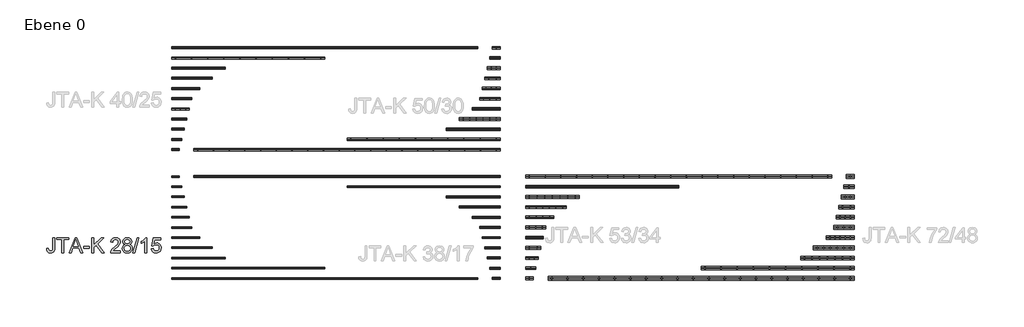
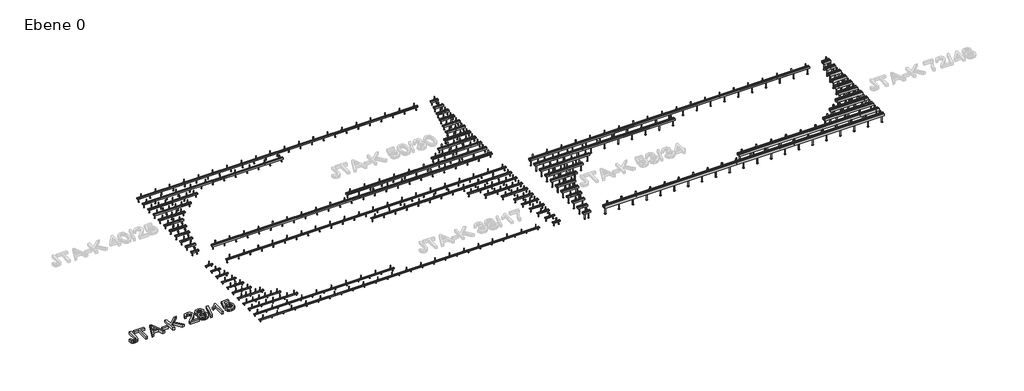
# One storey, part 1 of 2: 66 fasteners, 1 proxy.
"""IFC4 building model written with IfcOpenShell, lengths in millimetres."""

from ifc_helpers import new_model, si_unit, origin, origin_with_axes, place, context, project, spatial, polyline, outline, extrude, transform, mapped, element, save
from components import fastener_61a32017, fastener_a3984f85, fastener_40bd0cf4, fastener_e9d794d6, fastener_d3574054, fastener_d96db2c9, fastener_0c17b6f2, fastener_9355f2c9, fastener_f9462707, fastener_2a8526ea, fastener_4f74e423, fastener_eb618456, fastener_de6a3690, fastener_d2c01e08, fastener_71f67f41, fastener_16b33fe7, fastener_7b0f8056, fastener_93242841, fastener_ff0beab8, fastener_93fc2f02, fastener_7abe190a, fastener_b281879b, fastener_84ff23ae, fastener_51e1c163, fastener_f85daf05, fastener_4211a4d2, fastener_92da6513, fastener_b844dea4, fastener_3531c618, fastener_3d54363d, fastener_5b8b43c4, fastener_92227e6e, fastener_18c1616e, fastener_2c174a87, fastener_072ff4f7, fastener_1dbd13a3, fastener_97376ea7, fastener_59fca8c3, fastener_4070ea0e, fastener_8d107929, fastener_8cfe3b35, fastener_ee6d43ff, fastener_3c34351d, fastener_2074a9e6, fastener_27162e01, fastener_2880c9a4, fastener_0efea10d, fastener_9ad5a3d9, fastener_dbdc9a0d, fastener_aa669f07, fastener_8c050877, fastener_4d64e47d, fastener_23f97d67, fastener_7a9c5ce5, fastener_0f207156, fastener_d4986e7a, fastener_5419c579, fastener_5bf4a707, fastener_90f1b800, fastener_ee30c52b, fastener_b5f35e6b, fastener_05728250, fastener_1148fff7, fastener_e5733688, fastener_5901f516, fastener_ef55ff8e, fastener_5608e21b, fastener_f4c04970, fastener_14b91d63, fastener_a3ed88b3, fastener_20ff117f, fastener_c084cefd, fastener_39b38214, fastener_62582262, fastener_2fbb87c7, fastener_2c76f361, fastener_8c3ed580, fastener_f6363f88, fastener_9a6c4959, fastener_4a2195e9, fastener_f7e20542, fastener_1e1d3071, fastener_df0cfee4, fastener_135f6368, fastener_8fff43ae, fastener_901281f7, fastener_529edd93, fastener_e5844477, fastener_3a6b7516, fastener_b06f2bc2

model = new_model("IFC4")

# Units and contexts
model_context = context("Model", 3, world=origin())
ifc_project = project(units=[si_unit("LENGTHUNIT", "METRE", prefix="MILLI")], contexts=[model_context])

# Site, building, storey
site = spatial("IfcSite", under=ifc_project)
building = spatial("IfcBuilding", under=site)
storey = spatial("IfcBuildingStorey", under=building, Name="Ebene 0", Elevation=0.0)

# Proxy
placement = place(None, origin())
element("IfcBuildingElementProxy", 1, Name="600mm Arial", ObjectType="600mm Arial", at=placement, inside=storey, context=model_context, shape_type="SweptSolid", body=[
    extrude(outline(polyline([(-10093.7628927, -2094.3740925), (-10056.8398158, -2089.6144771), (-10052.9996716, -2116.4594291), (-10044.2196235, -2133.2442848), (-10030.806162, -2142.0603906), (-10013.0657774, -2144.9990925), (-9999.4269552, -2143.3314243), (-9987.789335, -2138.3284195), (-9978.8109697, -2130.4498137), (-9973.149912, -2120.1553425), (-9969.1475081, -2083.5567848), (-9969.1475081, -1881.9221695), (-9932.2244312, -1881.9221695), (-9932.2244312, -2082.9077464), (-9934.4509937, -2115.7833473), (-9941.1306812, -2140.2755348), (-9952.6511139, -2158.1691646), (-9969.399912, -2171.2490925), (-9990.430561, -2179.2539002), (-10014.7965466, -2181.9221695), (-10048.9251524, -2176.414357), (-10062.595525, -2169.5295913), (-10074.0032774, -2159.8909195), (-10082.945585, -2147.534399), (-10089.2196235, -2132.4960877), (-10093.7628927, -2094.3740925)])), origin_with_axes(), (0.0, 0.0, 1.0), 50.0),
    extrude(outline(polyline([(-9793.7628927, -2177.3067848), (-9793.7628927, -1918.8452464), (-9890.6859697, -1918.8452464), (-9890.6859697, -1881.9221695), (-9659.9167389, -1881.9221695), (-9659.9167389, -1918.8452464), (-9756.8398158, -1918.8452464), (-9756.8398158, -2177.3067848), (-9793.7628927, -2177.3067848)])), origin_with_axes(), (0.0, 0.0, 1.0), 50.0),
    extrude(outline(polyline([(-9652.7773158, -2177.3067848), (-9534.868662, -1881.9221695), (-9503.4263543, -1881.9221695), (-9385.5177004, -2177.3067848), (-9424.5321235, -2177.3067848), (-9458.3542389, -2084.9990925), (-9580.0128927, -2084.9990925), (-9613.7628927, -2177.3067848), (-9652.7773158, -2177.3067848)]), holes=[polyline([(-9566.4552004, -2048.0760156), (-9471.8398158, -2048.0760156), (-9498.4503927, -1975.4558233), (-9519.1475081, -1918.8452464), (-9537.5369312, -1969.1096695), (-9566.4552004, -2048.0760156)])]), origin_with_axes(), (0.0, 0.0, 1.0), 50.0),
    extrude(outline(polyline([(-9369.1475081, -2089.6144771), (-9369.1475081, -2052.6914002), (-9253.7628927, -2052.6914002), (-9253.7628927, -2089.6144771), (-9369.1475081, -2089.6144771)])), origin_with_axes(), (0.0, 0.0, 1.0), 50.0),
    extrude(outline(polyline([(-9207.6090466, -2177.3067848), (-9207.6090466, -1881.9221695), (-9170.6859697, -1881.9221695), (-9170.6859697, -2026.5135156), (-9019.243662, -1881.9221695), (-8967.6090466, -1881.9221695), (-9094.7484697, -2003.3644771), (-8962.993662, -2177.3067848), (-9008.1378927, -2177.3067848), (-9120.9263543, -2028.3164002), (-9170.6859697, -2075.7683233), (-9170.6859697, -2177.3067848), (-9207.6090466, -2177.3067848)])), origin_with_axes(), (0.0, 0.0, 1.0), 50.0),
    extrude(outline(polyline([(-8644.5321235, -2140.3837079), (-8644.5321235, -2177.3067848), (-8838.3782774, -2177.3067848), (-8834.4119312, -2151.8500541), (-8825.3073639, -2131.9552223), (-8811.9840466, -2112.6553425), (-8792.71121, -2092.4540204), (-8765.758085, -2069.8548618), (-8725.914335, -2034.4642368), (-8702.008085, -2008.3404387), (-8690.05496, -1987.1385156), (-8686.070585, -1966.5135156), (-8689.8295995, -1948.0249339), (-8701.1066427, -1932.6553425), (-8718.4413783, -1922.2977704), (-8740.3734697, -1918.8452464), (-8763.4053206, -1922.2166406), (-8781.2989504, -1932.3308233), (-8792.8464264, -1948.3945252), (-8796.8398158, -1969.6144771), (-8833.7628927, -1964.9990925), (-8824.8115706, -1929.2839483), (-8816.434918, -1915.0366526), (-8805.4576043, -1903.1962079), (-8792.1320334, -1893.8888161), (-8776.7106091, -1887.2406791), (-8739.5802004, -1881.9221695), (-8719.7912882, -1883.4005348), (-8702.1793591, -1887.835631), (-8686.7444132, -1895.2274579), (-8673.4864504, -1905.5760156), (-8662.8381632, -1918.1150781), (-8655.2322437, -1932.0784195), (-8650.668692, -1947.4660396), (-8649.1475081, -1964.2779387), (-8650.7881331, -1981.9371935), (-8655.7100081, -1999.2899579), (-8664.4449841, -2016.9401983), (-8677.524912, -2035.491881), (-8698.3752725, -2057.6403185), (-8730.4215466, -2086.0808233), (-8772.8975081, -2121.5976502), (-8789.556162, -2140.3837079), (-8644.5321235, -2140.3837079)])), origin_with_axes(), (0.0, 0.0, 1.0), 50.0),
    extrude(outline(polyline([(-8553.8109697, -2014.6144771), (-8573.5795995, -2004.8789002), (-8587.4527966, -1991.6817848), (-8595.6469072, -1975.2935637), (-8598.3782774, -1955.9846695), (-8592.4287581, -1927.1204868), (-8574.5802004, -1903.2683233), (-8561.6940826, -1893.929381), (-8546.8338062, -1887.2587079), (-8511.1907774, -1881.9221695), (-8475.3314024, -1887.3849098), (-8460.3088663, -1894.2133353), (-8447.2244312, -1903.773131), (-8429.0513543, -1928.0039002), (-8424.508085, -1941.9041406), (-8422.993662, -1956.9942848), (-8425.6889745, -1975.6811839), (-8433.774912, -1991.7899579), (-8447.3416187, -2004.9059435), (-8466.4792389, -2014.6144771), (-8443.7538783, -2026.3242127), (-8427.212412, -2043.5688041), (-8417.1252725, -2065.5189243), (-8413.7628927, -2091.3452464), (-8415.430561, -2109.7617127), (-8420.4335658, -2126.6457271), (-8428.7719072, -2141.9972896), (-8440.445585, -2155.8164002), (-8454.8416187, -2167.2376743), (-8471.3470274, -2175.3957271), (-8489.961811, -2180.2905589), (-8510.6859697, -2181.9221695), (-8531.4101283, -2180.2837981), (-8550.024912, -2175.3686839), (-8566.5303206, -2167.1768269), (-8580.9263543, -2155.7082271), (-8592.6000322, -2141.7922115), (-8600.9383735, -2126.258107), (-8605.9413783, -2109.1059134), (-8607.6090466, -2090.335631), (-8604.1114504, -2063.5087079), (-8593.618662, -2041.4414002), (-8576.6715466, -2024.8909195), (-8553.8109697, -2014.6144771)]), holes=[polyline([(-8561.4552004, -1957.0664002), (-8558.1829649, -1973.1841887), (-8548.3662581, -1986.0567848), (-8532.2935418, -1994.4942848), (-8510.2532774, -1997.3067848), (-8488.726835, -1994.5123137), (-8472.8975081, -1986.1289002), (-8463.1619312, -1973.6889964), (-8459.9167389, -1958.7250541), (-8463.2701043, -1943.1932031), (-8473.3302004, -1930.3476502), (-8489.3758735, -1921.7208473), (-8510.6859697, -1918.8452464), (-8532.1312822, -1921.6577464), (-8548.149912, -1930.0952464), (-8558.1288783, -1942.4630348), (-8561.4552004, -1957.0664002)]), polyline([(-8570.6859697, -2089.0375541), (-8564.5201043, -2116.8380348), (-8555.9834456, -2128.7641166), (-8542.7052004, -2137.6433233), (-8526.8037581, -2143.1601502), (-8510.3975081, -2144.9990925), (-8485.2652966, -2141.131905), (-8466.4071235, -2129.5303425), (-8454.6162581, -2111.961232), (-8450.6859697, -2090.1914002), (-8454.74246, -2068.0519771), (-8466.9119312, -2050.0952464), (-8486.2027966, -2038.1962079), (-8511.6234697, -2034.2298618), (-8536.4041187, -2038.1421214), (-8555.0729889, -2049.8789002), (-8566.7827245, -2067.4930829), (-8570.6859697, -2089.0375541)])]), origin_with_axes(), (0.0, 0.0, 1.0), 50.0),
    extrude(outline(polyline([(-8399.9167389, -2177.3067848), (-8316.8398158, -1881.9221695), (-8283.5225081, -1881.9221695), (-8366.5994312, -2177.3067848), (-8399.9167389, -2177.3067848)])), origin_with_axes(), (0.0, 0.0, 1.0), 50.0),
    extrude(outline(polyline([(-8127.6090466, -2177.3067848), (-8164.5321235, -2177.3067848), (-8164.5321235, -1947.1144771), (-8199.508085, -1972.0303425), (-8238.3782774, -1990.6721695), (-8238.3782774, -1955.7683233), (-8209.3788783, -1939.9930829), (-8184.2556812, -1921.2250541), (-8164.4509937, -1901.2671214), (-8151.4071235, -1881.9221695), (-8127.6090466, -1881.9221695), (-8127.6090466, -2177.3067848)])), origin_with_axes(), (0.0, 0.0, 1.0), 50.0),
    extrude(outline(polyline([(-8039.9167389, -2098.8452464), (-8002.993662, -2094.2298618), (-7996.2148158, -2116.3963281), (-7984.3878927, -2132.2707271), (-7967.5669793, -2141.8170012), (-7945.806162, -2144.9990925), (-7919.3398158, -2140.5730108), (-7899.508085, -2127.2947656), (-7887.1222677, -2106.6968089), (-7882.993662, -2080.3115925), (-7886.8608495, -2055.4678425), (-7898.462412, -2036.4654387), (-7917.8884937, -2024.4041406), (-7945.2292389, -2020.3837079), (-7963.1408975, -2021.9882752), (-7977.6451043, -2026.8019771), (-7998.3782774, -2043.460631), (-8035.3013543, -2038.8452464), (-8002.993662, -1886.5375541), (-7859.9167389, -1886.5375541), (-7859.9167389, -1923.460631), (-7973.1378927, -1923.460631), (-7988.931162, -2004.8067848), (-7962.55496, -1988.7971695), (-7934.9167389, -1983.460631), (-7916.9352185, -1985.1147776), (-7900.4185418, -1990.0772175), (-7885.3667088, -1998.3479507), (-7871.7797197, -2009.9269771), (-7860.5319733, -2024.1066646), (-7852.4978687, -2040.179381), (-7847.677406, -2058.1451262), (-7846.070585, -2078.0039002), (-7851.8578447, -2114.9269771), (-7859.0919192, -2131.3873137), (-7869.2196235, -2146.5135156), (-7884.5621716, -2162.0048017), (-7902.4648158, -2173.070006), (-7922.9275562, -2179.7091286), (-7945.9503927, -2181.9221695), (-7982.2154168, -2176.2340685), (-7997.5827545, -2169.1239423), (-8011.1066427, -2159.1697656), (-8022.3588963, -2146.8673317), (-8030.9113302, -2132.7124339), (-8039.9167389, -2098.8452464)])), origin_with_axes(), (0.0, 0.0, 1.0), 50.0),
])

# Fasteners
fastener_shape = fastener_61a32017(model_context)
element("IfcFastener", 2, ObjectType="JTA-K JORDAHL® AnchorChannels : JTA-K L=300 mm", at=placement, inside=storey, context=model_context, shape_type="MappedRepresentation", body=[
    mapped(fastener_shape, transform((-7643.969712, -1280.7365413, 0.0), x_axis=(1.0, 0.0, 0.0), y_axis=(0.0, 1.0, 0.0), z_axis=(0.0, 0.0, 1.0))),
])
fastener_2_shape = fastener_a3984f85(model_context)
element("IfcFastener", 3, ObjectType="JTA-K JORDAHL® AnchorChannels : JTA-K L=1050 mm", at=placement, inside=storey, context=model_context, shape_type="MappedRepresentation", body=[
    mapped(fastener_2_shape, transform((-7643.969712, -2280.7365413, 0.0), x_axis=(1.0, 0.0, 0.0), y_axis=(0.0, 1.0, 0.0), z_axis=(0.0, 0.0, 1.0))),
])
fastener_3_shape = fastener_40bd0cf4(model_context)
element("IfcFastener", 4, ObjectType="JTA-K JORDAHL® AnchorChannels : JTA-K L=550 mm", at=placement, inside=storey, context=model_context, shape_type="MappedRepresentation", body=[
    mapped(fastener_3_shape, transform((-7643.969712, -1880.7365413, 0.0), x_axis=(1.0, 0.0, 0.0), y_axis=(0.0, 1.0, 0.0), z_axis=(0.0, 0.0, 1.0))),
])
fastener_4_shape = fastener_e9d794d6(model_context)
element("IfcFastener", 5, ObjectType="JTA-K JORDAHL® AnchorChannels : JTA-K L=350 mm", at=placement, inside=storey, context=model_context, shape_type="MappedRepresentation", body=[
    mapped(fastener_4_shape, transform((-7643.969712, -1480.7365413, 0.0), x_axis=(1.0, 0.0, 0.0), y_axis=(0.0, 1.0, 0.0), z_axis=(0.0, 0.0, 1.0))),
])
fastener_5_shape = fastener_d3574054(model_context)
element("IfcFastener", 6, ObjectType="JTA-K JORDAHL® AnchorChannels : JTA-K L=250 mm", at=placement, inside=storey, context=model_context, shape_type="MappedRepresentation", body=[
    mapped(fastener_5_shape, transform((-7643.969712, -1080.7365413, 0.0), x_axis=(1.0, 0.0, 0.0), y_axis=(0.0, 1.0, 0.0), z_axis=(0.0, 0.0, 1.0))),
])
fastener_6_shape = fastener_d96db2c9(model_context)
element("IfcFastener", 7, ObjectType="JTA-K JORDAHL® AnchorChannels : JTA-K L=200 mm", at=placement, inside=storey, context=model_context, shape_type="MappedRepresentation", body=[
    mapped(fastener_6_shape, transform((-7643.969712, -880.7365413, 0.0), x_axis=(1.0, 0.0, 0.0), y_axis=(0.0, 1.0, 0.0), z_axis=(0.0, 0.0, 1.0))),
])
fastener_7_shape = fastener_0c17b6f2(model_context)
element("IfcFastener", 8, ObjectType="JTA-K JORDAHL® AnchorChannels : JTA-K L=400 mm", at=placement, inside=storey, context=model_context, shape_type="MappedRepresentation", body=[
    mapped(fastener_7_shape, transform((-7643.969712, -1680.7365413, 0.0), x_axis=(1.0, 0.0, 0.0), y_axis=(0.0, 1.0, 0.0), z_axis=(0.0, 0.0, 1.0))),
])
fastener_8_shape = fastener_9355f2c9(model_context)
element("IfcFastener", 9, ObjectType="JTA-K JORDAHL® AnchorChannels : JTA-K L=800 mm", at=placement, inside=storey, context=model_context, shape_type="MappedRepresentation", body=[
    mapped(fastener_8_shape, transform((-7643.969712, -2080.7365413, 0.0), x_axis=(1.0, 0.0, 0.0), y_axis=(0.0, 1.0, 0.0), z_axis=(0.0, 0.0, 1.0))),
])
fastener_9_shape = fastener_f9462707(model_context)
fastener_10_shape = fastener_2a8526ea(model_context)
element("IfcFastener", 10, ObjectType="JTA-K JORDAHL® AnchorChannels : JTA-K L=3000 mm", at=placement, inside=storey, context=model_context, shape_type="MappedRepresentation", body=[
    mapped(fastener_9_shape, transform((-7643.969712, -2480.7365413, 0.0), x_axis=(1.0, 0.0, 0.0), y_axis=(0.0, 1.0, 0.0), z_axis=(0.0, 0.0, 1.0))),
    mapped(fastener_10_shape, transform((-7643.969712, -2480.7365413, 0.0), x_axis=(1.0, 0.0, 0.0), y_axis=(0.0, 1.0, 0.0), z_axis=(0.0, 0.0, 1.0))),
])
fastener_11_shape = fastener_4f74e423(model_context)
fastener_12_shape = fastener_eb618456(model_context)
fastener_13_shape = fastener_de6a3690(model_context)
fastener_14_shape = fastener_d2c01e08(model_context)
element("IfcFastener", 11, ObjectType="JTA-K JORDAHL® AnchorChannels : JTA-K L=6000 mm", at=placement, inside=storey, context=model_context, shape_type="MappedRepresentation", body=[
    mapped(fastener_11_shape, transform((-7643.969712, -2680.7365413, 0.0), x_axis=(1.0, 0.0, 0.0), y_axis=(0.0, 1.0, 0.0), z_axis=(0.0, 0.0, 1.0))),
    mapped(fastener_12_shape, transform((-7643.969712, -2680.7365413, 0.0), x_axis=(1.0, 0.0, 0.0), y_axis=(0.0, 1.0, 0.0), z_axis=(0.0, 0.0, 1.0))),
    mapped(fastener_13_shape, transform((-7643.969712, -2680.7365413, 0.0), x_axis=(1.0, 0.0, 0.0), y_axis=(0.0, 1.0, 0.0), z_axis=(0.0, 0.0, 1.0))),
    mapped(fastener_14_shape, transform((-7643.969712, -2680.7365413, 0.0), x_axis=(1.0, 0.0, 0.0), y_axis=(0.0, 1.0, 0.0), z_axis=(0.0, 0.0, 1.0))),
])
fastener_15_shape = fastener_71f67f41(model_context)
element("IfcFastener", 12, ObjectType="JTA-K JORDAHL® AnchorChannels : JTA-K L=150 mm", at=placement, inside=storey, context=model_context, shape_type="MappedRepresentation", body=[
    mapped(fastener_15_shape, transform((-7643.969712, -680.7365413, 0.0), x_axis=(1.0, 0.0, 0.0), y_axis=(0.0, 1.0, 0.0), z_axis=(0.0, 0.0, 1.0))),
])
fastener_16_shape = fastener_16b33fe7(model_context)
element("IfcFastener", 13, ObjectType="JTA-K JORDAHL® AnchorChannels : JTA-K L=150 mm", at=placement, inside=storey, context=model_context, shape_type="MappedRepresentation", body=[
    mapped(fastener_16_shape, transform((-1203.969712, -2680.7365413, 0.0), x_axis=(-1.0, 0.0, 0.0), y_axis=(0.0, -1.0, 0.0), z_axis=(0.0, 0.0, 1.0))),
])
fastener_17_shape = fastener_7b0f8056(model_context)
element("IfcFastener", 14, ObjectType="JTA-K JORDAHL® AnchorChannels : JTA-K L=200 mm", at=placement, inside=storey, context=model_context, shape_type="MappedRepresentation", body=[
    mapped(fastener_17_shape, transform((-1203.969712, -2480.7365413, 0.0), x_axis=(-1.0, 0.0, 0.0), y_axis=(0.0, -1.0, 0.0), z_axis=(0.0, 0.0, 1.0))),
])
fastener_18_shape = fastener_93242841(model_context)
element("IfcFastener", 15, ObjectType="JTA-K JORDAHL® AnchorChannels : JTA-K L=250 mm", at=placement, inside=storey, context=model_context, shape_type="MappedRepresentation", body=[
    mapped(fastener_18_shape, transform((-1203.969712, -2280.7365413, 0.0), x_axis=(-1.0, 0.0, 0.0), y_axis=(0.0, -1.0, 0.0), z_axis=(0.0, 0.0, 1.0))),
])
fastener_19_shape = fastener_ff0beab8(model_context)
element("IfcFastener", 16, ObjectType="JTA-K JORDAHL® AnchorChannels : JTA-K L=300 mm", at=placement, inside=storey, context=model_context, shape_type="MappedRepresentation", body=[
    mapped(fastener_19_shape, transform((-1203.969712, -2080.7365413, 0.0), x_axis=(-1.0, 0.0, 0.0), y_axis=(0.0, -1.0, 0.0), z_axis=(0.0, 0.0, 1.0))),
])
fastener_20_shape = fastener_93fc2f02(model_context)
element("IfcFastener", 17, ObjectType="JTA-K JORDAHL® AnchorChannels : JTA-K L=350 mm", at=placement, inside=storey, context=model_context, shape_type="MappedRepresentation", body=[
    mapped(fastener_20_shape, transform((-1203.969712, -1880.7365413, 0.0), x_axis=(-1.0, 0.0, 0.0), y_axis=(0.0, -1.0, 0.0), z_axis=(0.0, 0.0, 1.0))),
])
fastener_21_shape = fastener_7abe190a(model_context)
element("IfcFastener", 18, ObjectType="JTA-K JORDAHL® AnchorChannels : JTA-K L=400 mm", at=placement, inside=storey, context=model_context, shape_type="MappedRepresentation", body=[
    mapped(fastener_21_shape, transform((-1203.969712, -1680.7365413, 0.0), x_axis=(-1.0, 0.0, 0.0), y_axis=(0.0, -1.0, 0.0), z_axis=(0.0, 0.0, 1.0))),
])
fastener_22_shape = fastener_b281879b(model_context)
element("IfcFastener", 19, ObjectType="JTA-K JORDAHL® AnchorChannels : JTA-K L=550 mm", at=placement, inside=storey, context=model_context, shape_type="MappedRepresentation", body=[
    mapped(fastener_22_shape, transform((-1203.969712, -1480.7365413, 0.0), x_axis=(-1.0, 0.0, 0.0), y_axis=(0.0, -1.0, 0.0), z_axis=(0.0, 0.0, 1.0))),
])
fastener_23_shape = fastener_84ff23ae(model_context)
element("IfcFastener", 20, ObjectType="JTA-K JORDAHL® AnchorChannels : JTA-K L=800 mm", at=placement, inside=storey, context=model_context, shape_type="MappedRepresentation", body=[
    mapped(fastener_23_shape, transform((-1203.969712, -1280.7365413, 0.0), x_axis=(-1.0, 0.0, 0.0), y_axis=(0.0, -1.0, 0.0), z_axis=(0.0, 0.0, 1.0))),
])
fastener_24_shape = fastener_51e1c163(model_context)
element("IfcFastener", 21, ObjectType="JTA-K JORDAHL® AnchorChannels : JTA-K L=1050 mm", at=placement, inside=storey, context=model_context, shape_type="MappedRepresentation", body=[
    mapped(fastener_24_shape, transform((-1203.969712, -1080.7365413, 0.0), x_axis=(-1.0, 0.0, 0.0), y_axis=(0.0, -1.0, 0.0), z_axis=(0.0, 0.0, 1.0))),
])
fastener_25_shape = fastener_f85daf05(model_context)
fastener_26_shape = fastener_4211a4d2(model_context)
element("IfcFastener", 22, ObjectType="JTA-K JORDAHL® AnchorChannels : JTA-K L=3000 mm", at=placement, inside=storey, context=model_context, shape_type="MappedRepresentation", body=[
    mapped(fastener_25_shape, transform((-1203.969712, -880.7365413, 0.0), x_axis=(-1.0, 0.0, 0.0), y_axis=(0.0, -1.0, 0.0), z_axis=(0.0, 0.0, 1.0))),
    mapped(fastener_26_shape, transform((-1203.969712, -880.7365413, 0.0), x_axis=(-1.0, 0.0, 0.0), y_axis=(0.0, -1.0, 0.0), z_axis=(0.0, 0.0, 1.0))),
])
fastener_27_shape = fastener_92da6513(model_context)
fastener_28_shape = fastener_b844dea4(model_context)
fastener_29_shape = fastener_3531c618(model_context)
fastener_30_shape = fastener_3d54363d(model_context)
element("IfcFastener", 23, ObjectType="JTA-K JORDAHL® AnchorChannels : JTA-K L=6000 mm", at=placement, inside=storey, context=model_context, shape_type="MappedRepresentation", body=[
    mapped(fastener_27_shape, transform((-1203.969712, -680.7365413, 0.0), x_axis=(-1.0, 0.0, 0.0), y_axis=(0.0, -1.0, 0.0), z_axis=(0.0, 0.0, 1.0))),
    mapped(fastener_28_shape, transform((-1203.969712, -680.7365413, 0.0), x_axis=(-1.0, 0.0, 0.0), y_axis=(0.0, -1.0, 0.0), z_axis=(0.0, 0.0, 1.0))),
    mapped(fastener_29_shape, transform((-1203.969712, -680.7365413, 0.0), x_axis=(-1.0, 0.0, 0.0), y_axis=(0.0, -1.0, 0.0), z_axis=(0.0, 0.0, 1.0))),
    mapped(fastener_30_shape, transform((-1203.969712, -680.7365413, 0.0), x_axis=(-1.0, 0.0, 0.0), y_axis=(0.0, -1.0, 0.0), z_axis=(0.0, 0.0, 1.0))),
])
fastener_31_shape = fastener_5b8b43c4(model_context)
element("IfcFastener", 24, ObjectType="JTA-K JORDAHL® AnchorChannels : JTA-K L=1050 mm", at=placement, inside=storey, context=model_context, shape_type="MappedRepresentation", body=[
    mapped(fastener_31_shape, transform((-7643.969712, 1447.2634587, 0.0), x_axis=(1.0, 0.0, 0.0), y_axis=(0.0, 1.0, 0.0), z_axis=(0.0, 0.0, 1.0))),
])
fastener_32_shape = fastener_92227e6e(model_context)
element("IfcFastener", 25, ObjectType="JTA-K JORDAHL® AnchorChannels : JTA-K L=550 mm", at=placement, inside=storey, context=model_context, shape_type="MappedRepresentation", body=[
    mapped(fastener_32_shape, transform((-7643.969712, 1047.2634587, 0.0), x_axis=(1.0, 0.0, 0.0), y_axis=(0.0, 1.0, 0.0), z_axis=(0.0, 0.0, 1.0))),
])
fastener_33_shape = fastener_18c1616e(model_context)
element("IfcFastener", 26, ObjectType="JTA-K JORDAHL® AnchorChannels : JTA-K L=350 mm", at=placement, inside=storey, context=model_context, shape_type="MappedRepresentation", body=[
    mapped(fastener_33_shape, transform((-7643.969712, 647.2634587, 0.0), x_axis=(1.0, 0.0, 0.0), y_axis=(0.0, 1.0, 0.0), z_axis=(0.0, 0.0, 1.0))),
])
fastener_34_shape = fastener_2c174a87(model_context)
element("IfcFastener", 27, ObjectType="JTA-K JORDAHL® AnchorChannels : JTA-K L=300 mm", at=placement, inside=storey, context=model_context, shape_type="MappedRepresentation", body=[
    mapped(fastener_34_shape, transform((-7643.969712, 447.2634587, 0.0), x_axis=(1.0, 0.0, 0.0), y_axis=(0.0, 1.0, 0.0), z_axis=(0.0, 0.0, 1.0))),
])
fastener_35_shape = fastener_072ff4f7(model_context)
element("IfcFastener", 28, ObjectType="JTA-K JORDAHL® AnchorChannels : JTA-K L=250 mm", at=placement, inside=storey, context=model_context, shape_type="MappedRepresentation", body=[
    mapped(fastener_35_shape, transform((-7643.969712, 247.2634587, 0.0), x_axis=(1.0, 0.0, 0.0), y_axis=(0.0, 1.0, 0.0), z_axis=(0.0, 0.0, 1.0))),
])
fastener_36_shape = fastener_1dbd13a3(model_context)
element("IfcFastener", 29, ObjectType="JTA-K JORDAHL® AnchorChannels : JTA-K L=200 mm", at=placement, inside=storey, context=model_context, shape_type="MappedRepresentation", body=[
    mapped(fastener_36_shape, transform((-7643.969712, 47.2634587, 0.0), x_axis=(1.0, 0.0, 0.0), y_axis=(0.0, 1.0, 0.0), z_axis=(0.0, 0.0, 1.0))),
])
fastener_37_shape = fastener_97376ea7(model_context)
element("IfcFastener", 30, ObjectType="JTA-K JORDAHL® AnchorChannels : JTA-K L=400 mm", at=placement, inside=storey, context=model_context, shape_type="MappedRepresentation", body=[
    mapped(fastener_37_shape, transform((-7643.969712, 847.2634587, 0.0), x_axis=(1.0, 0.0, 0.0), y_axis=(0.0, 1.0, 0.0), z_axis=(0.0, 0.0, 1.0))),
])
fastener_38_shape = fastener_59fca8c3(model_context)
element("IfcFastener", 31, ObjectType="JTA-K JORDAHL® AnchorChannels : JTA-K L=800 mm", at=placement, inside=storey, context=model_context, shape_type="MappedRepresentation", body=[
    mapped(fastener_38_shape, transform((-7643.969712, 1247.2634587, 0.0), x_axis=(1.0, 0.0, 0.0), y_axis=(0.0, 1.0, 0.0), z_axis=(0.0, 0.0, 1.0))),
])
fastener_39_shape = fastener_4070ea0e(model_context)
fastener_40_shape = fastener_8d107929(model_context)
element("IfcFastener", 32, ObjectType="JTA-K JORDAHL® AnchorChannels : JTA-K L=3000 mm", at=placement, inside=storey, context=model_context, shape_type="MappedRepresentation", body=[
    mapped(fastener_39_shape, transform((-7643.969712, 1647.2634587, 0.0), x_axis=(1.0, 0.0, 0.0), y_axis=(0.0, 1.0, 0.0), z_axis=(0.0, 0.0, 1.0))),
    mapped(fastener_40_shape, transform((-7643.969712, 1647.2634587, 0.0), x_axis=(1.0, 0.0, 0.0), y_axis=(0.0, 1.0, 0.0), z_axis=(0.0, 0.0, 1.0))),
])
fastener_41_shape = fastener_8cfe3b35(model_context)
fastener_42_shape = fastener_ee6d43ff(model_context)
fastener_43_shape = fastener_3c34351d(model_context)
fastener_44_shape = fastener_2074a9e6(model_context)
element("IfcFastener", 33, ObjectType="JTA-K JORDAHL® AnchorChannels : JTA-K L=6000 mm", at=placement, inside=storey, context=model_context, shape_type="MappedRepresentation", body=[
    mapped(fastener_41_shape, transform((-7643.969712, 1847.2634587, 0.0), x_axis=(1.0, 0.0, 0.0), y_axis=(0.0, 1.0, 0.0), z_axis=(0.0, 0.0, 1.0))),
    mapped(fastener_42_shape, transform((-7643.969712, 1847.2634587, 0.0), x_axis=(1.0, 0.0, 0.0), y_axis=(0.0, 1.0, 0.0), z_axis=(0.0, 0.0, 1.0))),
    mapped(fastener_43_shape, transform((-7643.969712, 1847.2634587, 0.0), x_axis=(1.0, 0.0, 0.0), y_axis=(0.0, 1.0, 0.0), z_axis=(0.0, 0.0, 1.0))),
    mapped(fastener_44_shape, transform((-7643.969712, 1847.2634587, 0.0), x_axis=(1.0, 0.0, 0.0), y_axis=(0.0, 1.0, 0.0), z_axis=(0.0, 0.0, 1.0))),
])
fastener_45_shape = fastener_27162e01(model_context)
element("IfcFastener", 34, ObjectType="JTA-K JORDAHL® AnchorChannels : JTA-K L=150 mm", at=placement, inside=storey, context=model_context, shape_type="MappedRepresentation", body=[
    mapped(fastener_45_shape, transform((-7643.969712, -152.7365413, 0.0), x_axis=(1.0, 0.0, 0.0), y_axis=(0.0, 1.0, 0.0), z_axis=(0.0, 0.0, 1.0))),
])
fastener_46_shape = fastener_2880c9a4(model_context)
element("IfcFastener", 35, ObjectType="JTA-K JORDAHL® AnchorChannels : JTA-K L=150 mm", at=placement, inside=storey, context=model_context, shape_type="MappedRepresentation", body=[
    mapped(fastener_46_shape, transform((-1203.969712, 1847.2634587, 0.0), x_axis=(-1.0, 0.0, 0.0), y_axis=(0.0, -1.0, 0.0), z_axis=(0.0, 0.0, 1.0))),
])
fastener_47_shape = fastener_0efea10d(model_context)
element("IfcFastener", 36, ObjectType="JTA-K JORDAHL® AnchorChannels : JTA-K L=200 mm", at=placement, inside=storey, context=model_context, shape_type="MappedRepresentation", body=[
    mapped(fastener_47_shape, transform((-1203.969712, 1647.2634587, 0.0), x_axis=(-1.0, 0.0, 0.0), y_axis=(0.0, -1.0, 0.0), z_axis=(0.0, 0.0, 1.0))),
])
fastener_48_shape = fastener_9ad5a3d9(model_context)
element("IfcFastener", 37, ObjectType="JTA-K JORDAHL® AnchorChannels : JTA-K L=250 mm", at=placement, inside=storey, context=model_context, shape_type="MappedRepresentation", body=[
    mapped(fastener_48_shape, transform((-1203.969712, 1447.2634587, 0.0), x_axis=(-1.0, 0.0, 0.0), y_axis=(0.0, -1.0, 0.0), z_axis=(0.0, 0.0, 1.0))),
])
fastener_49_shape = fastener_dbdc9a0d(model_context)
element("IfcFastener", 38, ObjectType="JTA-K JORDAHL® AnchorChannels : JTA-K L=300 mm", at=placement, inside=storey, context=model_context, shape_type="MappedRepresentation", body=[
    mapped(fastener_49_shape, transform((-1203.969712, 1247.2634587, 0.0), x_axis=(-1.0, 0.0, 0.0), y_axis=(0.0, -1.0, 0.0), z_axis=(0.0, 0.0, 1.0))),
])
fastener_50_shape = fastener_aa669f07(model_context)
element("IfcFastener", 39, ObjectType="JTA-K JORDAHL® AnchorChannels : JTA-K L=350 mm", at=placement, inside=storey, context=model_context, shape_type="MappedRepresentation", body=[
    mapped(fastener_50_shape, transform((-1203.969712, 1047.2634587, 0.0), x_axis=(-1.0, 0.0, 0.0), y_axis=(0.0, -1.0, 0.0), z_axis=(0.0, 0.0, 1.0))),
])
fastener_51_shape = fastener_8c050877(model_context)
element("IfcFastener", 40, ObjectType="JTA-K JORDAHL® AnchorChannels : JTA-K L=400 mm", at=placement, inside=storey, context=model_context, shape_type="MappedRepresentation", body=[
    mapped(fastener_51_shape, transform((-1203.969712, 847.2634587, 0.0), x_axis=(-1.0, 0.0, 0.0), y_axis=(0.0, -1.0, 0.0), z_axis=(0.0, 0.0, 1.0))),
])
fastener_52_shape = fastener_4d64e47d(model_context)
element("IfcFastener", 41, ObjectType="JTA-K JORDAHL® AnchorChannels : JTA-K L=550 mm", at=placement, inside=storey, context=model_context, shape_type="MappedRepresentation", body=[
    mapped(fastener_52_shape, transform((-1203.969712, 647.2634587, 0.0), x_axis=(-1.0, 0.0, 0.0), y_axis=(0.0, -1.0, 0.0), z_axis=(0.0, 0.0, 1.0))),
])
fastener_53_shape = fastener_23f97d67(model_context)
element("IfcFastener", 42, ObjectType="JTA-K JORDAHL® AnchorChannels : JTA-K L=800 mm", at=placement, inside=storey, context=model_context, shape_type="MappedRepresentation", body=[
    mapped(fastener_53_shape, transform((-1203.969712, 447.2634587, 0.0), x_axis=(-1.0, 0.0, 0.0), y_axis=(0.0, -1.0, 0.0), z_axis=(0.0, 0.0, 1.0))),
])
fastener_54_shape = fastener_7a9c5ce5(model_context)
element("IfcFastener", 43, ObjectType="JTA-K JORDAHL® AnchorChannels : JTA-K L=1050 mm", at=placement, inside=storey, context=model_context, shape_type="MappedRepresentation", body=[
    mapped(fastener_54_shape, transform((-1203.969712, 247.2634587, 0.0), x_axis=(-1.0, 0.0, 0.0), y_axis=(0.0, -1.0, 0.0), z_axis=(0.0, 0.0, 1.0))),
])
fastener_55_shape = fastener_0f207156(model_context)
fastener_56_shape = fastener_d4986e7a(model_context)
element("IfcFastener", 44, ObjectType="JTA-K JORDAHL® AnchorChannels : JTA-K L=3000 mm", at=placement, inside=storey, context=model_context, shape_type="MappedRepresentation", body=[
    mapped(fastener_55_shape, transform((-1203.969712, 47.2634587, 0.0), x_axis=(-1.0, 0.0, 0.0), y_axis=(0.0, -1.0, 0.0), z_axis=(0.0, 0.0, 1.0))),
    mapped(fastener_56_shape, transform((-1203.969712, 47.2634587, 0.0), x_axis=(-1.0, 0.0, 0.0), y_axis=(0.0, -1.0, 0.0), z_axis=(0.0, 0.0, 1.0))),
])
fastener_57_shape = fastener_5419c579(model_context)
fastener_58_shape = fastener_5bf4a707(model_context)
fastener_59_shape = fastener_90f1b800(model_context)
fastener_60_shape = fastener_ee30c52b(model_context)
element("IfcFastener", 45, ObjectType="JTA-K JORDAHL® AnchorChannels : JTA-K L=6000 mm", at=placement, inside=storey, context=model_context, shape_type="MappedRepresentation", body=[
    mapped(fastener_57_shape, transform((-1203.969712, -152.7365413, 0.0), x_axis=(-1.0, 0.0, 0.0), y_axis=(0.0, -1.0, 0.0), z_axis=(0.0, 0.0, 1.0))),
    mapped(fastener_58_shape, transform((-1203.969712, -152.7365413, 0.0), x_axis=(-1.0, 0.0, 0.0), y_axis=(0.0, -1.0, 0.0), z_axis=(0.0, 0.0, 1.0))),
    mapped(fastener_59_shape, transform((-1203.969712, -152.7365413, 0.0), x_axis=(-1.0, 0.0, 0.0), y_axis=(0.0, -1.0, 0.0), z_axis=(0.0, 0.0, 1.0))),
    mapped(fastener_60_shape, transform((-1203.969712, -152.7365413, 0.0), x_axis=(-1.0, 0.0, 0.0), y_axis=(0.0, -1.0, 0.0), z_axis=(0.0, 0.0, 1.0))),
])
fastener_61_shape = fastener_b5f35e6b(model_context)
element("IfcFastener", 46, ObjectType="JTA-K JORDAHL® AnchorChannels : JTA-K L=1050 mm", at=placement, inside=storey, context=model_context, shape_type="MappedRepresentation", body=[
    mapped(fastener_61_shape, transform((5736.030288, -2280.7365413, 0.0), x_axis=(-1.0, 0.0, 0.0), y_axis=(0.0, -1.0, 0.0), z_axis=(0.0, 0.0, 1.0))),
])
fastener_62_shape = fastener_05728250(model_context)
element("IfcFastener", 47, ObjectType="JTA-K JORDAHL® AnchorChannels : JTA-K L=550 mm", at=placement, inside=storey, context=model_context, shape_type="MappedRepresentation", body=[
    mapped(fastener_62_shape, transform((5736.030288, -1880.7365413, 0.0), x_axis=(-1.0, 0.0, 0.0), y_axis=(0.0, -1.0, 0.0), z_axis=(0.0, 0.0, 1.0))),
])
fastener_63_shape = fastener_1148fff7(model_context)
element("IfcFastener", 48, ObjectType="JTA-K JORDAHL® AnchorChannels : JTA-K L=350 mm", at=placement, inside=storey, context=model_context, shape_type="MappedRepresentation", body=[
    mapped(fastener_63_shape, transform((5736.030288, -1480.7365413, 0.0), x_axis=(-1.0, 0.0, 0.0), y_axis=(0.0, -1.0, 0.0), z_axis=(0.0, 0.0, 1.0))),
])
fastener_64_shape = fastener_e5733688(model_context)
element("IfcFastener", 49, ObjectType="JTA-K JORDAHL® AnchorChannels : JTA-K L=300 mm", at=placement, inside=storey, context=model_context, shape_type="MappedRepresentation", body=[
    mapped(fastener_64_shape, transform((5736.030288, -1280.7365413, 0.0), x_axis=(-1.0, 0.0, 0.0), y_axis=(0.0, -1.0, 0.0), z_axis=(0.0, 0.0, 1.0))),
])
fastener_65_shape = fastener_5901f516(model_context)
element("IfcFastener", 50, ObjectType="JTA-K JORDAHL® AnchorChannels : JTA-K L=250 mm", at=placement, inside=storey, context=model_context, shape_type="MappedRepresentation", body=[
    mapped(fastener_65_shape, transform((5736.030288, -1080.7365413, 0.0), x_axis=(-1.0, 0.0, 0.0), y_axis=(0.0, -1.0, 0.0), z_axis=(0.0, 0.0, 1.0))),
])
fastener_66_shape = fastener_ef55ff8e(model_context)
element("IfcFastener", 51, ObjectType="JTA-K JORDAHL® AnchorChannels : JTA-K L=200 mm", at=placement, inside=storey, context=model_context, shape_type="MappedRepresentation", body=[
    mapped(fastener_66_shape, transform((5736.030288, -880.7365413, 0.0), x_axis=(-1.0, 0.0, 0.0), y_axis=(0.0, -1.0, 0.0), z_axis=(0.0, 0.0, 1.0))),
])
fastener_67_shape = fastener_5608e21b(model_context)
element("IfcFastener", 52, ObjectType="JTA-K JORDAHL® AnchorChannels : JTA-K L=400 mm", at=placement, inside=storey, context=model_context, shape_type="MappedRepresentation", body=[
    mapped(fastener_67_shape, transform((5736.030288, -1680.7365413, 0.0), x_axis=(-1.0, 0.0, 0.0), y_axis=(0.0, -1.0, 0.0), z_axis=(0.0, 0.0, 1.0))),
])
fastener_68_shape = fastener_f4c04970(model_context)
element("IfcFastener", 53, ObjectType="JTA-K JORDAHL® AnchorChannels : JTA-K L=800 mm", at=placement, inside=storey, context=model_context, shape_type="MappedRepresentation", body=[
    mapped(fastener_68_shape, transform((5736.030288, -2080.7365413, 0.0), x_axis=(-1.0, 0.0, 0.0), y_axis=(0.0, -1.0, 0.0), z_axis=(0.0, 0.0, 1.0))),
])
fastener_69_shape = fastener_14b91d63(model_context)
fastener_70_shape = fastener_a3ed88b3(model_context)
element("IfcFastener", 54, ObjectType="JTA-K JORDAHL® AnchorChannels : JTA-K L=3000 mm", at=placement, inside=storey, context=model_context, shape_type="MappedRepresentation", body=[
    mapped(fastener_69_shape, transform((5736.030288, -2480.7365413, 0.0), x_axis=(-1.0, 0.0, 0.0), y_axis=(0.0, -1.0, 0.0), z_axis=(0.0, 0.0, 1.0))),
    mapped(fastener_70_shape, transform((5736.030288, -2480.7365413, 0.0), x_axis=(-1.0, 0.0, 0.0), y_axis=(0.0, -1.0, 0.0), z_axis=(0.0, 0.0, 1.0))),
])
fastener_71_shape = fastener_20ff117f(model_context)
fastener_72_shape = fastener_c084cefd(model_context)
fastener_73_shape = fastener_39b38214(model_context)
fastener_74_shape = fastener_62582262(model_context)
element("IfcFastener", 55, ObjectType="JTA-K JORDAHL® AnchorChannels : JTA-K L=6000 mm", at=placement, inside=storey, context=model_context, shape_type="MappedRepresentation", body=[
    mapped(fastener_71_shape, transform((5736.030288, -2680.7365413, 0.0), x_axis=(-1.0, 0.0, 0.0), y_axis=(0.0, -1.0, 0.0), z_axis=(0.0, 0.0, 1.0))),
    mapped(fastener_72_shape, transform((5736.030288, -2680.7365413, 0.0), x_axis=(-1.0, 0.0, 0.0), y_axis=(0.0, -1.0, 0.0), z_axis=(0.0, 0.0, 1.0))),
    mapped(fastener_73_shape, transform((5736.030288, -2680.7365413, 0.0), x_axis=(-1.0, 0.0, 0.0), y_axis=(0.0, -1.0, 0.0), z_axis=(0.0, 0.0, 1.0))),
    mapped(fastener_74_shape, transform((5736.030288, -2680.7365413, 0.0), x_axis=(-1.0, 0.0, 0.0), y_axis=(0.0, -1.0, 0.0), z_axis=(0.0, 0.0, 1.0))),
])
fastener_75_shape = fastener_2fbb87c7(model_context)
element("IfcFastener", 56, ObjectType="JTA-K JORDAHL® AnchorChannels : JTA-K L=150 mm", at=placement, inside=storey, context=model_context, shape_type="MappedRepresentation", body=[
    mapped(fastener_75_shape, transform((5736.030288, -680.7365413, 0.0), x_axis=(-1.0, 0.0, 0.0), y_axis=(0.0, -1.0, 0.0), z_axis=(0.0, 0.0, 1.0))),
])
fastener_76_shape = fastener_2c76f361(model_context)
element("IfcFastener", 57, ObjectType="JTA-K JORDAHL® AnchorChannels : JTA-K L=150 mm", at=placement, inside=storey, context=model_context, shape_type="MappedRepresentation", body=[
    mapped(fastener_76_shape, transform((-703.969712, -2680.7365413, 0.0), x_axis=(1.0, 0.0, 0.0), y_axis=(0.0, 1.0, 0.0), z_axis=(0.0, 0.0, 1.0))),
])
fastener_77_shape = fastener_8c3ed580(model_context)
element("IfcFastener", 58, ObjectType="JTA-K JORDAHL® AnchorChannels : JTA-K L=200 mm", at=placement, inside=storey, context=model_context, shape_type="MappedRepresentation", body=[
    mapped(fastener_77_shape, transform((-703.969712, -2480.7365413, 0.0), x_axis=(1.0, 0.0, 0.0), y_axis=(0.0, 1.0, 0.0), z_axis=(0.0, 0.0, 1.0))),
])
fastener_78_shape = fastener_f6363f88(model_context)
element("IfcFastener", 59, ObjectType="JTA-K JORDAHL® AnchorChannels : JTA-K L=250 mm", at=placement, inside=storey, context=model_context, shape_type="MappedRepresentation", body=[
    mapped(fastener_78_shape, transform((-703.969712, -2280.7365413, 0.0), x_axis=(1.0, 0.0, 0.0), y_axis=(0.0, 1.0, 0.0), z_axis=(0.0, 0.0, 1.0))),
])
fastener_79_shape = fastener_9a6c4959(model_context)
element("IfcFastener", 60, ObjectType="JTA-K JORDAHL® AnchorChannels : JTA-K L=300 mm", at=placement, inside=storey, context=model_context, shape_type="MappedRepresentation", body=[
    mapped(fastener_79_shape, transform((-703.969712, -2080.7365413, 0.0), x_axis=(1.0, 0.0, 0.0), y_axis=(0.0, 1.0, 0.0), z_axis=(0.0, 0.0, 1.0))),
])
fastener_80_shape = fastener_4a2195e9(model_context)
element("IfcFastener", 61, ObjectType="JTA-K JORDAHL® AnchorChannels : JTA-K L=350 mm", at=placement, inside=storey, context=model_context, shape_type="MappedRepresentation", body=[
    mapped(fastener_80_shape, transform((-703.969712, -1880.7365413, 0.0), x_axis=(1.0, 0.0, 0.0), y_axis=(0.0, 1.0, 0.0), z_axis=(0.0, 0.0, 1.0))),
])
fastener_81_shape = fastener_f7e20542(model_context)
element("IfcFastener", 62, ObjectType="JTA-K JORDAHL® AnchorChannels : JTA-K L=400 mm", at=placement, inside=storey, context=model_context, shape_type="MappedRepresentation", body=[
    mapped(fastener_81_shape, transform((-703.969712, -1680.7365413, 0.0), x_axis=(1.0, 0.0, 0.0), y_axis=(0.0, 1.0, 0.0), z_axis=(0.0, 0.0, 1.0))),
])
fastener_82_shape = fastener_1e1d3071(model_context)
element("IfcFastener", 63, ObjectType="JTA-K JORDAHL® AnchorChannels : JTA-K L=550 mm", at=placement, inside=storey, context=model_context, shape_type="MappedRepresentation", body=[
    mapped(fastener_82_shape, transform((-703.969712, -1480.7365413, 0.0), x_axis=(1.0, 0.0, 0.0), y_axis=(0.0, 1.0, 0.0), z_axis=(0.0, 0.0, 1.0))),
])
fastener_83_shape = fastener_df0cfee4(model_context)
element("IfcFastener", 64, ObjectType="JTA-K JORDAHL® AnchorChannels : JTA-K L=800 mm", at=placement, inside=storey, context=model_context, shape_type="MappedRepresentation", body=[
    mapped(fastener_83_shape, transform((-703.969712, -1280.7365413, 0.0), x_axis=(1.0, 0.0, 0.0), y_axis=(0.0, 1.0, 0.0), z_axis=(0.0, 0.0, 1.0))),
])
fastener_84_shape = fastener_135f6368(model_context)
element("IfcFastener", 65, ObjectType="JTA-K JORDAHL® AnchorChannels : JTA-K L=1050 mm", at=placement, inside=storey, context=model_context, shape_type="MappedRepresentation", body=[
    mapped(fastener_84_shape, transform((-703.969712, -1080.7365413, 0.0), x_axis=(1.0, 0.0, 0.0), y_axis=(0.0, 1.0, 0.0), z_axis=(0.0, 0.0, 1.0))),
])
fastener_85_shape = fastener_8fff43ae(model_context)
fastener_86_shape = fastener_901281f7(model_context)
element("IfcFastener", 66, ObjectType="JTA-K JORDAHL® AnchorChannels : JTA-K L=3000 mm", at=placement, inside=storey, context=model_context, shape_type="MappedRepresentation", body=[
    mapped(fastener_85_shape, transform((-703.969712, -880.7365413, 0.0), x_axis=(1.0, 0.0, 0.0), y_axis=(0.0, 1.0, 0.0), z_axis=(0.0, 0.0, 1.0))),
    mapped(fastener_86_shape, transform((-703.969712, -880.7365413, 0.0), x_axis=(1.0, 0.0, 0.0), y_axis=(0.0, 1.0, 0.0), z_axis=(0.0, 0.0, 1.0))),
])
fastener_87_shape = fastener_529edd93(model_context)
fastener_88_shape = fastener_e5844477(model_context)
fastener_89_shape = fastener_3a6b7516(model_context)
fastener_90_shape = fastener_b06f2bc2(model_context)
element("IfcFastener", 67, ObjectType="JTA-K JORDAHL® AnchorChannels : JTA-K L=6000 mm", at=placement, inside=storey, context=model_context, shape_type="MappedRepresentation", body=[
    mapped(fastener_87_shape, transform((-703.969712, -680.7365413, 0.0), x_axis=(1.0, 0.0, 0.0), y_axis=(0.0, 1.0, 0.0), z_axis=(0.0, 0.0, 1.0))),
    mapped(fastener_88_shape, transform((-703.969712, -680.7365413, 0.0), x_axis=(1.0, 0.0, 0.0), y_axis=(0.0, 1.0, 0.0), z_axis=(0.0, 0.0, 1.0))),
    mapped(fastener_89_shape, transform((-703.969712, -680.7365413, 0.0), x_axis=(1.0, 0.0, 0.0), y_axis=(0.0, 1.0, 0.0), z_axis=(0.0, 0.0, 1.0))),
    mapped(fastener_90_shape, transform((-703.969712, -680.7365413, 0.0), x_axis=(1.0, 0.0, 0.0), y_axis=(0.0, 1.0, 0.0), z_axis=(0.0, 0.0, 1.0))),
])

save(model, "model.ifc")
